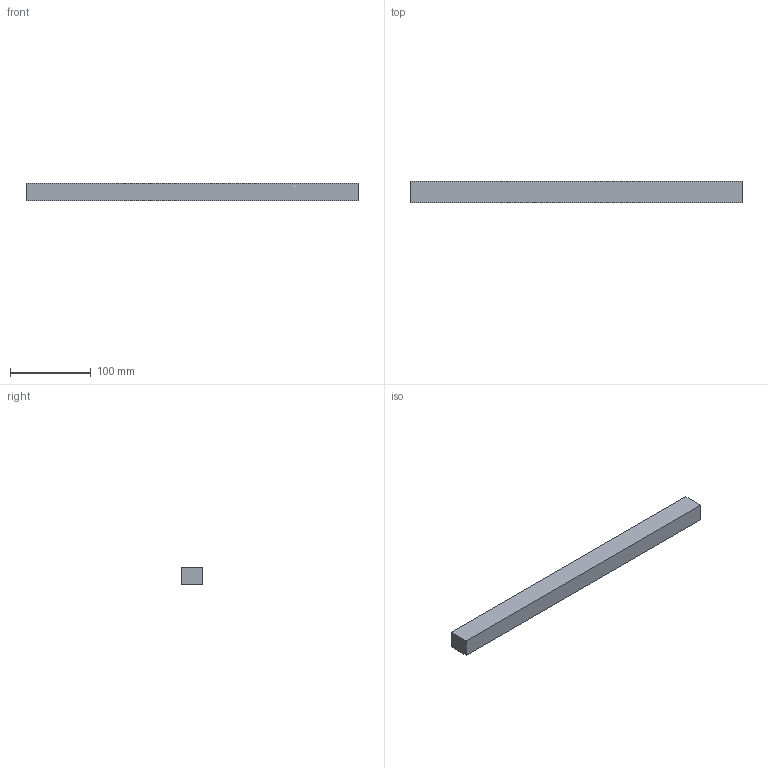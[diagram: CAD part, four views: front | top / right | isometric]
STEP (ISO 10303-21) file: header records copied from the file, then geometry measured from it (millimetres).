
FILE_DESCRIPTION(('Open CASCADE Model'),'2;1');
FILE_NAME('Open CASCADE Shape Model','2026-09-19T23:46:39',('Author'),( 'Open CASCADE'),'Open CASCADE STEP processor 7.9','Open CASCADE 7.9' ,'Unknown');
FILE_SCHEMA(('AUTOMOTIVE_DESIGN { 1 0 10303 214 1 1 1 1 }'));
Length unit declared in the file: millimetre
Products named in the file (1): Open CASCADE STEP translator 7.9 3
Bounding box: 410 x 26 x 22 mm (x, y, z)
Volume: 234520 mm3; surface area: 40504 mm2
Topology: 1 solids, 1 shells, 6 faces, 12 edges, 8 vertices
Faces by surface type: plane 6
Entity records: 322 total; most frequent: CARTESIAN_POINT 51, DIRECTION 50, LINE 36, VECTOR 36, ORIENTED_EDGE 24, PCURVE 24, DEFINITIONAL_REPRESENTATION 24, EDGE_CURVE 12
